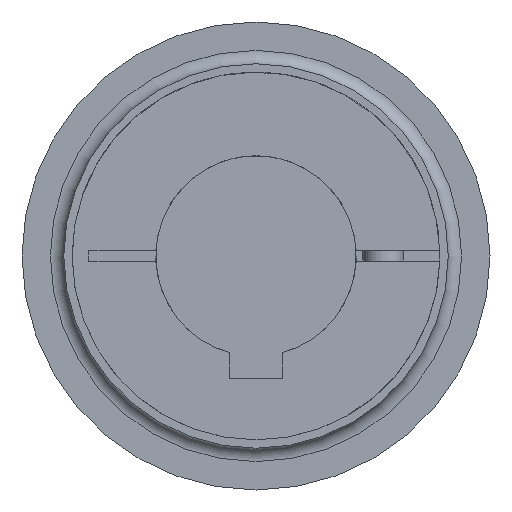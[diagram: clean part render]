
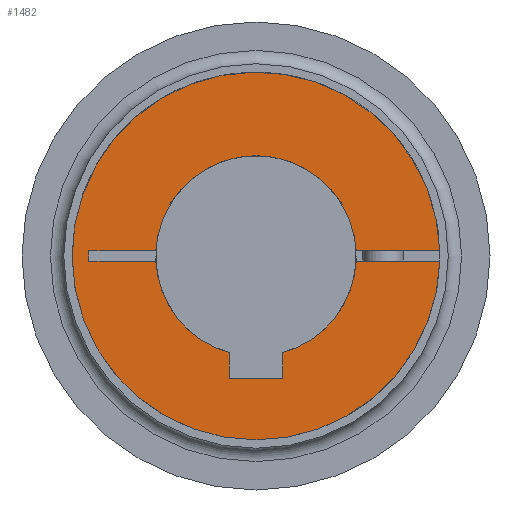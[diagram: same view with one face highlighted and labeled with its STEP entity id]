
A CAD part, left-side view. The second image highlights one B-rep face of the part: STEP entity #1482.
In plain terms, the highlighted planar face has unit normal (-1, 0, 0).
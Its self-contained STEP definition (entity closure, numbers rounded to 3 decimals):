
#24=PLANE('',#1695);
#141=LINE('',#2678,#244);
#144=LINE('',#2684,#247);
#145=LINE('',#2686,#248);
#156=LINE('',#2707,#259);
#157=LINE('',#2709,#260);
#158=LINE('',#2711,#261);
#159=LINE('',#2713,#262);
#160=LINE('',#2714,#263);
#244=VECTOR('',#2053,1.);
#247=VECTOR('',#2058,1.);
#248=VECTOR('',#2061,1.);
#259=VECTOR('',#2084,1.);
#260=VECTOR('',#2087,1.);
#261=VECTOR('',#2088,1.);
#262=VECTOR('',#2089,1.);
#263=VECTOR('',#2090,1.);
#375=FACE_OUTER_BOUND('',#470,.T.);
#470=EDGE_LOOP('',(#1224,#1225,#1226,#1227,#1228,#1229,#1230,#1231,#1232,
#1233,#1234,#1235,#1236));
#604=CIRCLE('',#1630,27.5);
#607=CIRCLE('',#1633,27.5);
#638=CIRCLE('',#1679,15.);
#641=CIRCLE('',#1683,15.);
#643=CIRCLE('',#1685,15.);
#697=VERTEX_POINT('',#2374);
#698=VERTEX_POINT('',#2376);
#703=VERTEX_POINT('',#2386);
#744=VERTEX_POINT('',#2648);
#745=VERTEX_POINT('',#2649);
#750=VERTEX_POINT('',#2660);
#751=VERTEX_POINT('',#2662);
#754=VERTEX_POINT('',#2668);
#755=VERTEX_POINT('',#2670);
#757=VERTEX_POINT('',#2676);
#759=VERTEX_POINT('',#2682);
#764=VERTEX_POINT('',#2710);
#765=VERTEX_POINT('',#2712);
#862=EDGE_CURVE('',#697,#698,#604,.T.);
#868=EDGE_CURVE('',#703,#697,#607,.T.);
#921=EDGE_CURVE('',#744,#745,#638,.T.);
#927=EDGE_CURVE('',#751,#750,#641,.T.);
#931=EDGE_CURVE('',#755,#754,#643,.T.);
#935=EDGE_CURVE('',#754,#757,#141,.T.);
#938=EDGE_CURVE('',#757,#759,#144,.T.);
#939=EDGE_CURVE('',#759,#751,#145,.T.);
#950=EDGE_CURVE('',#745,#698,#156,.T.);
#951=EDGE_CURVE('',#703,#755,#157,.T.);
#952=EDGE_CURVE('',#750,#764,#158,.T.);
#953=EDGE_CURVE('',#764,#765,#159,.T.);
#954=EDGE_CURVE('',#765,#744,#160,.T.);
#1224=ORIENTED_EDGE('',*,*,#921,.T.);
#1225=ORIENTED_EDGE('',*,*,#950,.T.);
#1226=ORIENTED_EDGE('',*,*,#862,.F.);
#1227=ORIENTED_EDGE('',*,*,#868,.F.);
#1228=ORIENTED_EDGE('',*,*,#951,.T.);
#1229=ORIENTED_EDGE('',*,*,#931,.T.);
#1230=ORIENTED_EDGE('',*,*,#935,.T.);
#1231=ORIENTED_EDGE('',*,*,#938,.T.);
#1232=ORIENTED_EDGE('',*,*,#939,.T.);
#1233=ORIENTED_EDGE('',*,*,#927,.T.);
#1234=ORIENTED_EDGE('',*,*,#952,.T.);
#1235=ORIENTED_EDGE('',*,*,#953,.T.);
#1236=ORIENTED_EDGE('',*,*,#954,.T.);
#1482=ADVANCED_FACE('',(#375),#24,.T.);
#1630=AXIS2_PLACEMENT_3D('',#2377,#1912,#1913);
#1633=AXIS2_PLACEMENT_3D('',#2388,#1921,#1922);
#1679=AXIS2_PLACEMENT_3D('',#2650,#2029,#2030);
#1683=AXIS2_PLACEMENT_3D('',#2663,#2040,#2041);
#1685=AXIS2_PLACEMENT_3D('',#2671,#2046,#2047);
#1695=AXIS2_PLACEMENT_3D('',#2708,#2085,#2086);
#1912=DIRECTION('center_axis',(1.,0.,0.));
#1913=DIRECTION('ref_axis',(0.,0.,1.));
#1921=DIRECTION('center_axis',(1.,0.,0.));
#1922=DIRECTION('ref_axis',(0.,0.,1.));
#2029=DIRECTION('center_axis',(1.,0.,0.));
#2030=DIRECTION('ref_axis',(0.,0.,-1.));
#2040=DIRECTION('center_axis',(1.,0.,0.));
#2041=DIRECTION('ref_axis',(0.,0.,-1.));
#2046=DIRECTION('center_axis',(1.,0.,0.));
#2047=DIRECTION('ref_axis',(0.,0.,-1.));
#2053=DIRECTION('',(0.,0.,-1.));
#2058=DIRECTION('',(0.,1.,0.));
#2061=DIRECTION('',(0.,0.,1.));
#2084=DIRECTION('',(0.,-1.,0.));
#2085=DIRECTION('center_axis',(-1.,0.,0.));
#2086=DIRECTION('ref_axis',(0.,0.,-1.));
#2087=DIRECTION('',(0.,1.,0.));
#2088=DIRECTION('',(0.,1.,0.));
#2089=DIRECTION('',(0.,0.,1.));
#2090=DIRECTION('',(0.,-1.,0.));
#2374=CARTESIAN_POINT('',(0.,0.,-27.5));
#2376=CARTESIAN_POINT('',(0.,-27.49,0.75));
#2377=CARTESIAN_POINT('Origin',(0.,0.,0.));
#2386=CARTESIAN_POINT('',(0.,-27.49,-0.75));
#2388=CARTESIAN_POINT('Origin',(0.,0.,0.));
#2648=CARTESIAN_POINT('',(0.,14.981,0.75));
#2649=CARTESIAN_POINT('',(0.,-14.981,0.75));
#2650=CARTESIAN_POINT('Origin',(0.,0.,0.));
#2660=CARTESIAN_POINT('',(0.,14.981,-0.75));
#2662=CARTESIAN_POINT('',(0.,4.,-14.457));
#2663=CARTESIAN_POINT('Origin',(0.,0.,0.));
#2668=CARTESIAN_POINT('',(0.,-4.,-14.457));
#2670=CARTESIAN_POINT('',(0.,-14.981,-0.75));
#2671=CARTESIAN_POINT('Origin',(0.,0.,0.));
#2676=CARTESIAN_POINT('',(0.,-4.,-18.3));
#2678=CARTESIAN_POINT('',(0.,-4.,2.3));
#2682=CARTESIAN_POINT('',(0.,4.,-18.3));
#2684=CARTESIAN_POINT('',(0.,0.,-18.3));
#2686=CARTESIAN_POINT('',(0.,4.,2.3));
#2707=CARTESIAN_POINT('',(0.,-0.875,0.75));
#2708=CARTESIAN_POINT('Origin',(0.,0.,13.75));
#2709=CARTESIAN_POINT('',(0.,-0.875,-0.75));
#2710=CARTESIAN_POINT('',(0.,25.,-0.75));
#2711=CARTESIAN_POINT('',(0.,-0.875,-0.75));
#2712=CARTESIAN_POINT('',(0.,25.,0.75));
#2713=CARTESIAN_POINT('',(0.,25.,6.875));
#2714=CARTESIAN_POINT('',(0.,-0.875,0.75));
